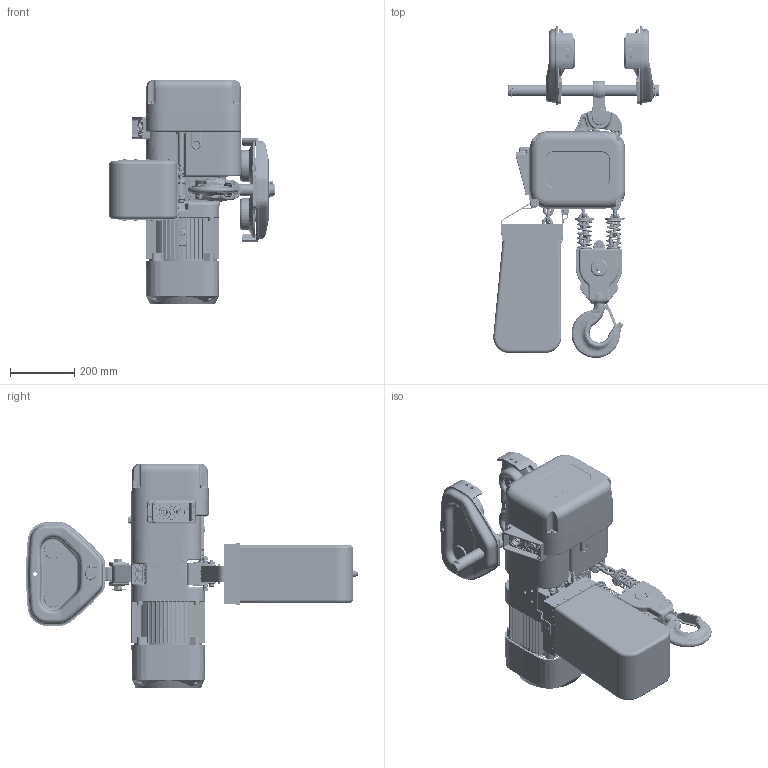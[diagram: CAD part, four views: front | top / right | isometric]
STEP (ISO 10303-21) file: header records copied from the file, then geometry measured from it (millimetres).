
FILE_DESCRIPTION (( 'STEP AP214' ), '1' );
FILE_NAME ('NER2P030C.STEP', '2026-08-05T14:05:22', ( '' ), ( '' ), 'SwSTEP 2.0', 'SolidWorks 2026', '' );
FILE_SCHEMA (( 'AUTOMOTIVE_DESIGN' ));
Length unit declared in the file: inch
Products named in the file (77): MS104030; 90912107_B18.3.1M - 10 x 1.5 x 100 Hex SHCS -- 100CHX; T7G117030; T6G5102030; LCER2020NP_8 LINKS; Socket Head Cap Screw_AM2_B18.3.1M - 6 x 1.0 x 12 Hex SHCS -- 12CHX; BK2E1_for (N)ER2020L; ER2ES9337; ER2ES9186; ER2BHM20S9A5; ER2ES9101; ER2ER2015; 90912116_90912116; 9009432_9009432; T6GA0309113; ER2ES9331; ER2ES9103; 90912104_ 90912104; M2049020_JIS B 1170 Small hexagon slotted nut Class 1 Low type Medium M10 --N; ER1ES1041; NER2P030C; ES127005S; ER2ES9338; ENDS2E2; MS164020; ER2ER9030; ER2ES9107_ER2ES9107; J1BG10604024_J1BG10604024; J1WS011-20100_Rectangular section spring washer BS 4464 - 16 (Type B); ER2EI2523; J1NA001-20100_B18.2.4.1M - Hex nut, Style 1,  M10 x 1.5, with 16mm WAF --D-C; ES047015; 9047125_B27.7M - 3AM1-23; E3S111003; ER2CS9357; ER2ER1011; 9091255_9091255; ER1EM9053; 9009416_9009416; ER2ES9104_ER2ES9104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
Assembly tree (159 placements, depth 5):
  NER2P030C
    NER2030C_FOR MANUAL TROLLEY
      ER2ES9104_ER2ES9104
      ER2ES9103
      ER2ES9101
      ER2ES9105
      ER2ES9107_ER2ES9107
      9091255_9091255  x4
      90912116_90912116  x4
      J1BG10604024_J1BG10604024  x4
      E3S112003
      E3S111003
      ER2ES9331
      single coil rectangular section spring washer_bsi_9012711  x4
      Socket Head Cap Screw_AM2_B18.3.1M - 5 x 0.8 x 25 Hex SHCS -- 25NHX  x4
      ER2ES9337
      ER2ES9338
      ER2CS9357
      ENDS2E2
        90912107_B18.3.1M - 10 x 1.5 x 100 Hex SHCS -- 100CHX
        ES066075
      ES127005S
      ER1BS9135
      ER2ES9121  x2
      ER2ES9123
      Socket Head Cap Screw_AM2_B18.3.1M - 6 x 1.0 x 12 Hex SHCS -- 12CHX
      ER2ES9186
      ER2ER9030
      ER1ES9032
      ER2ER1011
        ER2ER9011
        ER2ER1002
        ER2ER2015
          ER2ER9015  x2
          J1BA1-1004026_B18.2.3.1M - Hex cap screw, M10 x 1.5 x 40 --40C  x3
          J1WS011-20100_Rectangular section spring washer BS 4464 - 16 (Type B)  x3
          J1NA001-20100_B18.2.4.1M - Hex nut, Style 1,  M10 x 1.5, with 16mm WAF --D-C  x3
      ES047015  x2
      ER1ES9054
      LCER2020NP_14 LINKS
        LCER2020NP  x14
      ES041030
      M2049020_JIS B 1170 Small hexagon slotted nut Class 1 Low type Medium M10 --N
      9009416_9009416
      LCER2020NP_8 LINKS
        LCER2020NP  x8
      ER1ES1041
      ER2BHM20S9A5
      ER2BHM30R9A6
      ES088020L_ES088020
      9009436_9009436
      T7GB004030
      ER2EI4511
        ER2CS9511
        MS561010  x8
        ER2EI2523
        ER2EI2564
        ES558003  x8
      BK2E1_for (N)ER2020L
        ER2ES5403
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Bounding box: 516.39 x 1036.21 x 701.6 mm (x, y, z)
Volume: 32870343 mm3; surface area: 3976624.8 mm2
Topology: 173 solids, 190 shells, 9403 faces, 23794 edges, 14720 vertices
Faces by surface type: plane 3572, cylinder 3160, torus 993, bspline 764, cone 654, sphere 260
Entity records: 243166 total; most frequent: CARTESIAN_POINT 87913, DIRECTION 30973, ORIENTED_EDGE 30928, EDGE_CURVE 15466, AXIS2_PLACEMENT_3D 12100, VERTEX_POINT 9671, LINE 6773, VECTOR 6773
